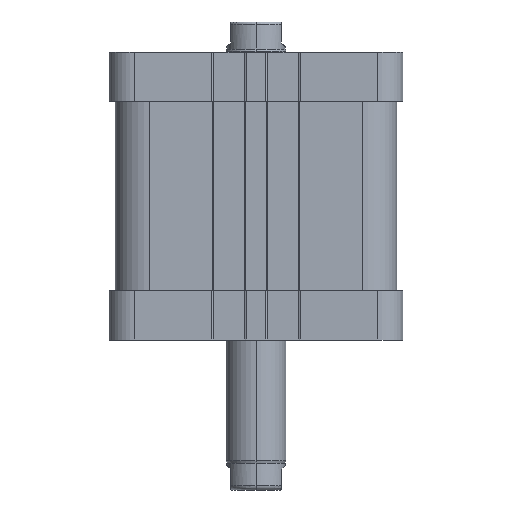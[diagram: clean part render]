
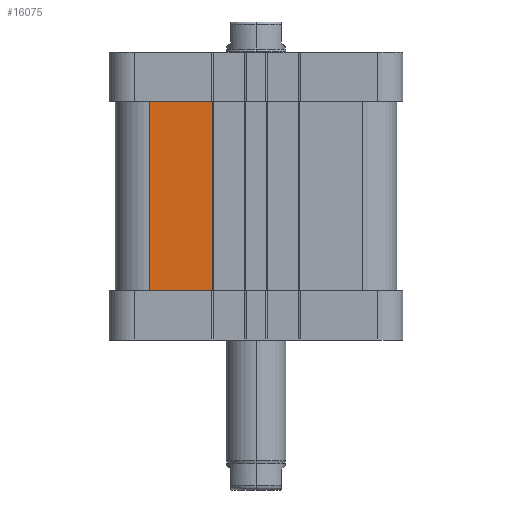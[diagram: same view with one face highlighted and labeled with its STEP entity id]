
A CAD part, left-side view. The second image highlights one B-rep face of the part: STEP entity #16075.
In plain terms, the highlighted planar face has unit normal (-1, 0, 0).
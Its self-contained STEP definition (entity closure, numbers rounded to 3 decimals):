
#9472=CARTESIAN_POINT('',(-28.25,-9.6,-11.6));
#9473=VERTEX_POINT('',#9472);
#9481=CARTESIAN_POINT('',(-28.25,11.5,-11.6));
#9482=VERTEX_POINT('',#9481);
#9483=CARTESIAN_POINT('',(-28.25,11.5,-11.6));
#9484=DIRECTION('',(0.0,-1.0,0.0));
#9485=VECTOR('',#9484,21.1);
#9486=LINE('',#9483,#9485);
#9487=EDGE_CURVE('',#9482,#9473,#9486,.T.);
#11966=CARTESIAN_POINT('',(-28.25,11.5,51.6));
#11967=VERTEX_POINT('',#11966);
#11975=CARTESIAN_POINT('',(-28.25,-9.6,51.6));
#11976=VERTEX_POINT('',#11975);
#11977=CARTESIAN_POINT('',(-28.25,-9.6,51.6));
#11978=DIRECTION('',(0.0,1.0,0.0));
#11979=VECTOR('',#11978,21.1);
#11980=LINE('',#11977,#11979);
#11981=EDGE_CURVE('',#11976,#11967,#11980,.T.);
#15993=CARTESIAN_POINT('',(-28.25,-9.6,51.6));
#15994=DIRECTION('',(0.0,0.0,-1.0));
#15995=VECTOR('',#15994,63.2);
#15996=LINE('',#15993,#15995);
#15997=EDGE_CURVE('',#11976,#9473,#15996,.T.);
#16059=CARTESIAN_POINT('',(-28.25,-59.5,-11.6));
#16060=DIRECTION('',(-1.0,0.0,0.0));
#16061=DIRECTION('',(0.0,0.0,1.0));
#16062=AXIS2_PLACEMENT_3D('',#16059,#16060,#16061);
#16063=PLANE('',#16062);
#16064=ORIENTED_EDGE('',*,*,#15997,.F.);
#16065=ORIENTED_EDGE('',*,*,#11981,.T.);
#16066=CARTESIAN_POINT('',(-28.25,11.5,-11.6));
#16067=DIRECTION('',(0.0,0.0,1.0));
#16068=VECTOR('',#16067,63.2);
#16069=LINE('',#16066,#16068);
#16070=EDGE_CURVE('',#9482,#11967,#16069,.T.);
#16071=ORIENTED_EDGE('',*,*,#16070,.F.);
#16072=ORIENTED_EDGE('',*,*,#9487,.T.);
#16073=EDGE_LOOP('',(#16064,#16065,#16071,#16072));
#16074=FACE_OUTER_BOUND('',#16073,.T.);
#16075=ADVANCED_FACE('',(#16074),#16063,.T.);
